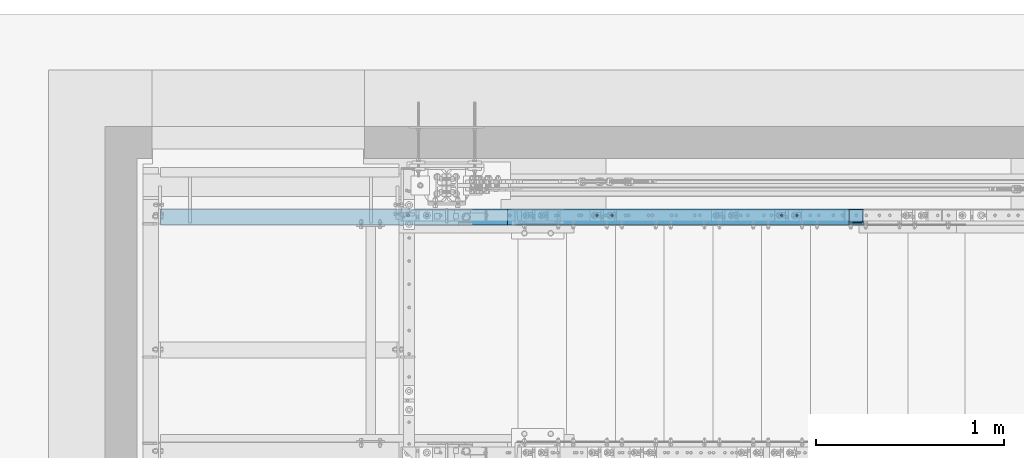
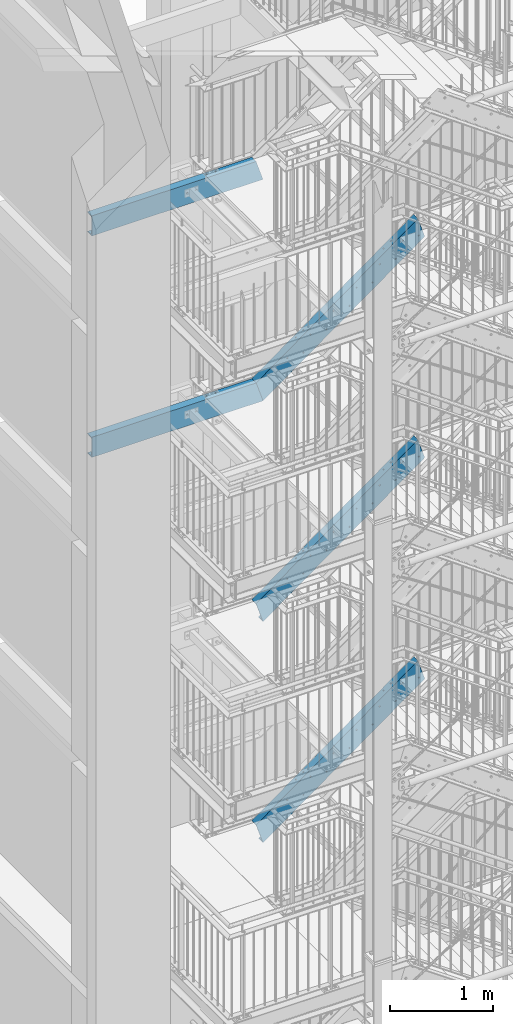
# One storey, part 124 of 817: 3 members, 2 beams, 60 openings.
"""IFC2X3 building model written with IfcOpenShell, lengths in millimetres."""

from ifc_helpers import new_model, entity, si_unit, converted_unit, frame, frame_2d, origin, origin_with_axes, origin_2d_with_axis, place, context, project, spatial, circle, u_section, extrude, clip, halfspace, material, element, save


model = new_model("IFC2X3")

# Units and contexts
model_context = context("Model", 3, precision=1e-09, world=origin_with_axes())
ifc_project = project(units=[si_unit("LENGTHUNIT", "METRE", prefix="MILLI"), si_unit("AREAUNIT", "SQUARE_METRE"), si_unit("VOLUMEUNIT", "CUBIC_METRE"), converted_unit("PLANEANGLEUNIT", "DEGREE", entity("IfcPlaneAngleMeasure", 0.01745329), si_unit("PLANEANGLEUNIT", "RADIAN"), dimensions=[0, 0, 0, 0, 0, 0, 0])], contexts=[model_context])

# Site, building, storey
site_placement = place(None, origin_with_axes())
site = spatial("IfcSite", under=ifc_project, at=site_placement, Name="Cnopf'sche Kinderklinik", CompositionType="ELEMENT")
building_placement = place(site_placement, origin_with_axes())
building = spatial("IfcBuilding", under=site, at=building_placement, Name="Struktur 1", CompositionType="ELEMENT")
storey_placement = place(building_placement, origin_with_axes())
storey = spatial("IfcBuildingStorey", under=building, at=storey_placement, Name="Default Storey", CompositionType="ELEMENT", Elevation=0.0)

# Member, openings
ifc_material = material(Name="S235JR")
member_1_placement = place(None, frame((5040.769761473, 7329.036971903, 9702.599256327), z_axis=(0.810878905, 0.0, 0.585213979), x_axis=(0.0, 1.0, 0.0)))
member_1 = element("IfcMember", 1, at=member_1_placement, inside=storey, material=ifc_material, Name="Stringer#1", ObjectType="Stringer#1", context=model_context, shape_type="Clipping", body=[
    clip(clip(extrude(u_section(Depth=240.0, FlangeWidth=85.0, WebThickness=9.5, FlangeThickness=13.0, FilletRadius=13.0, EdgeRadius=6.5, FlangeSlope=4.574, at=frame_2d((20.2, 0.0))), origin(), (0.0, 0.0, 1.0), 2764.271887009), halfspace(frame((-7329.036971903, -8031.601758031, -129.944247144), z_axis=(0.0, 0.307506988, -0.951545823), x_axis=(-1.0, 0.0, 0.0)), True)), halfspace(frame((-7329.036971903, -7374.852372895, -2162.18142843), z_axis=(0.0, -0.307506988, 0.951545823), x_axis=(1.0, 0.0, 0.0)), True)),
])
opening_1_placement = place(member_1_placement, frame((-22.8, -50.419344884, 791.0398607), z_axis=(1.0, 0.0, 0.0), x_axis=(0.0, -0.585213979, 0.810878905)))
element("IfcOpeningElement", 2, at=opening_1_placement, cuts=member_1, ObjectType="Opening", context=model_context, shape_type="SweptSolid", body=[
    extrude(circle(Radius=7.001, at=origin_2d_with_axis()), origin(), (0.0, 0.0, 1.0), 10.5),
])
opening_2_placement = place(member_1_placement, frame((-22.8, 54.91917113, 1607.0008729), z_axis=(1.0, 0.0, 0.0), x_axis=(0.0, -0.585213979, 0.810878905)))
element("IfcOpeningElement", 3, at=opening_2_placement, cuts=member_1, ObjectType="Opening", context=model_context, shape_type="SweptSolid", body=[
    extrude(circle(Radius=7.001, at=origin_2d_with_axis()), origin(), (0.0, 0.0, 1.0), 10.5),
])
opening_3_placement = place(member_1_placement, frame((-22.8, -50.419345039, 1432.319337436), z_axis=(1.0, 0.0, 0.0), x_axis=(0.0, -0.585213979, 0.810878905)))
element("IfcOpeningElement", 4, at=opening_3_placement, cuts=member_1, ObjectType="Opening", context=model_context, shape_type="SweptSolid", body=[
    extrude(circle(Radius=7.001, at=origin_2d_with_axis()), origin(), (0.0, 0.0, 1.0), 10.5),
])
opening_4_placement = place(member_1_placement, frame((-22.8, -50.419345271, 2394.23855254), z_axis=(1.0, 0.0, 0.0), x_axis=(0.0, -0.585213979, 0.810878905)))
element("IfcOpeningElement", 5, at=opening_4_placement, cuts=member_1, ObjectType="Opening", context=model_context, shape_type="SweptSolid", body=[
    extrude(circle(Radius=7.001, at=origin_2d_with_axis()), origin(), (0.0, 0.0, 1.0), 10.5),
])
opening_5_placement = place(member_1_placement, frame((-22.8, -50.419345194, 2073.598814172), z_axis=(1.0, 0.0, 0.0), x_axis=(0.0, -0.585213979, 0.810878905)))
element("IfcOpeningElement", 6, at=opening_5_placement, cuts=member_1, ObjectType="Opening", context=model_context, shape_type="SweptSolid", body=[
    extrude(circle(Radius=7.001, at=origin_2d_with_axis()), origin(), (0.0, 0.0, 1.0), 10.5),
])
opening_6_placement = place(member_1_placement, frame((-22.8, 54.919171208, 1286.361134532), z_axis=(1.0, 0.0, 0.0), x_axis=(0.0, -0.585213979, 0.810878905)))
element("IfcOpeningElement", 7, at=opening_6_placement, cuts=member_1, ObjectType="Opening", context=model_context, shape_type="SweptSolid", body=[
    extrude(circle(Radius=7.001, at=origin_2d_with_axis()), origin(), (0.0, 0.0, 1.0), 10.5),
])
opening_7_placement = place(member_1_placement, frame((-22.8, 54.919170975, 2248.280349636), z_axis=(1.0, 0.0, 0.0), x_axis=(0.0, -0.585213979, 0.810878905)))
element("IfcOpeningElement", 8, at=opening_7_placement, cuts=member_1, ObjectType="Opening", context=model_context, shape_type="SweptSolid", body=[
    extrude(circle(Radius=7.001, at=origin_2d_with_axis()), origin(), (0.0, 0.0, 1.0), 10.5),
])
opening_8_placement = place(member_1_placement, frame((-22.8, -50.419344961, 1111.679599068), z_axis=(1.0, 0.0, 0.0), x_axis=(0.0, -0.585213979, 0.810878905)))
element("IfcOpeningElement", 9, at=opening_8_placement, cuts=member_1, ObjectType="Opening", context=model_context, shape_type="SweptSolid", body=[
    extrude(circle(Radius=7.001, at=origin_2d_with_axis()), origin(), (0.0, 0.0, 1.0), 10.5),
])
opening_9_placement = place(member_1_placement, frame((-22.8, 54.919171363, 645.081657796), z_axis=(1.0, 0.0, 0.0), x_axis=(0.0, -0.585213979, 0.810878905)))
element("IfcOpeningElement", 10, at=opening_9_placement, cuts=member_1, ObjectType="Opening", context=model_context, shape_type="SweptSolid", body=[
    extrude(circle(Radius=7.001, at=origin_2d_with_axis()), origin(), (0.0, 0.0, 1.0), 10.5),
])
opening_10_placement = place(member_1_placement, frame((-22.8, -50.419345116, 1752.959075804), z_axis=(1.0, 0.0, 0.0), x_axis=(0.0, -0.585213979, 0.810878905)))
element("IfcOpeningElement", 11, at=opening_10_placement, cuts=member_1, ObjectType="Opening", context=model_context, shape_type="SweptSolid", body=[
    extrude(circle(Radius=7.001, at=origin_2d_with_axis()), origin(), (0.0, 0.0, 1.0), 10.5),
])
opening_11_placement = place(member_1_placement, frame((-22.8, 54.919171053, 1927.640611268), z_axis=(1.0, 0.0, 0.0), x_axis=(0.0, -0.585213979, 0.810878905)))
element("IfcOpeningElement", 12, at=opening_11_placement, cuts=member_1, ObjectType="Opening", context=model_context, shape_type="SweptSolid", body=[
    extrude(circle(Radius=7.001, at=origin_2d_with_axis()), origin(), (0.0, 0.0, 1.0), 10.5),
])
opening_12_placement = place(member_1_placement, frame((-22.8, 54.919171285, 965.721396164), z_axis=(1.0, 0.0, 0.0), x_axis=(0.0, -0.585213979, 0.810878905)))
element("IfcOpeningElement", 13, at=opening_12_placement, cuts=member_1, ObjectType="Opening", context=model_context, shape_type="SweptSolid", body=[
    extrude(circle(Radius=7.001, at=origin_2d_with_axis()), origin(), (0.0, 0.0, 1.0), 10.5),
])
opening_13_placement = place(member_1_placement, frame((27.7, 120.5, 940.625983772), z_axis=(0.0, 1.0, 0.0), x_axis=(-1.0, 0.0, 0.0)))
element("IfcOpeningElement", 14, at=opening_13_placement, cuts=member_1, ObjectType="Opening", context=model_context, shape_type="SweptSolid", body=[
    extrude(circle(Radius=7.001, at=frame_2d((0.0, 7.001), x_axis=(1.0, 0.0))), origin(), (0.0, 0.0, -1.0), 14.0),
])
opening_14_placement = place(member_1_placement, frame((27.7, 120.5, 840.625983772), z_axis=(0.0, 1.0, 0.0), x_axis=(-1.0, 0.0, 0.0)))
element("IfcOpeningElement", 15, at=opening_14_placement, cuts=member_1, ObjectType="Opening", context=model_context, shape_type="SweptSolid", body=[
    extrude(circle(Radius=7.001, at=frame_2d((0.0, 7.001), x_axis=(1.0, 0.0))), origin(), (0.0, 0.0, -1.0), 14.0),
])
opening_15_placement = place(member_1_placement, frame((27.7, 120.5, 2155.357476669), z_axis=(0.0, 1.0, 0.0), x_axis=(-1.0, 0.0, 0.0)))
element("IfcOpeningElement", 16, at=opening_15_placement, cuts=member_1, ObjectType="Opening", context=model_context, shape_type="SweptSolid", body=[
    extrude(circle(Radius=7.001, at=frame_2d((0.0, 7.001), x_axis=(1.0, 0.0))), origin(), (0.0, 0.0, -1.0), 14.0),
])
opening_16_placement = place(member_1_placement, frame((27.7, 120.5, 2055.357476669), z_axis=(0.0, 1.0, 0.0), x_axis=(-1.0, 0.0, 0.0)))
element("IfcOpeningElement", 17, at=opening_16_placement, cuts=member_1, ObjectType="Opening", context=model_context, shape_type="SweptSolid", body=[
    extrude(circle(Radius=7.001, at=frame_2d((0.0, 7.001), x_axis=(1.0, 0.0))), origin(), (0.0, 0.0, -1.0), 14.0),
])

member_2_placement = place(None, frame((5041.069476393, 7329.036971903, 7070.450295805), z_axis=(0.810350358, 0.0, 0.585945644), x_axis=(0.0, 1.0, 0.0)))
member_2 = element("IfcMember", 18, at=member_2_placement, inside=storey, material=ifc_material, Name="Stringer#1", ObjectType="Stringer#1", context=model_context, shape_type="Clipping", body=[
    clip(clip(extrude(u_section(Depth=240.0, FlangeWidth=85.0, WebThickness=9.5, FlangeThickness=13.0, FilletRadius=13.0, EdgeRadius=6.5, FlangeSlope=4.574, at=frame_2d((20.2, 0.0))), origin(), (0.0, 0.0, 1.0), 2765.811710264), halfspace(frame((-7329.036971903, -5645.874307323, 639.66863089), z_axis=(0.0, 0.307936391, -0.951406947), x_axis=(-1.0, 0.0, 0.0)), True)), halfspace(frame((-7329.036971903, -4987.874923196, -1393.300525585), z_axis=(0.0, -0.307936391, 0.951406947), x_axis=(1.0, 0.0, 0.0)), True)),
])
opening_17_placement = place(member_2_placement, frame((-22.8, 54.922632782, 2249.429010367), z_axis=(1.0, 0.0, 0.0), x_axis=(0.0, -0.585945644, 0.810350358)))
element("IfcOpeningElement", 19, at=opening_17_placement, cuts=member_2, ObjectType="Opening", context=model_context, shape_type="SweptSolid", body=[
    extrude(circle(Radius=7.001, at=origin_2d_with_axis()), origin(), (0.0, 0.0, 1.0), 10.5),
])
opening_18_placement = place(member_2_placement, frame((-22.8, -50.547583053, 2395.29207482), z_axis=(1.0, 0.0, 0.0), x_axis=(0.0, -0.585945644, 0.810350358)))
element("IfcOpeningElement", 20, at=opening_18_placement, cuts=member_2, ObjectType="Opening", context=model_context, shape_type="SweptSolid", body=[
    extrude(circle(Radius=7.001, at=origin_2d_with_axis()), origin(), (0.0, 0.0, 1.0), 10.5),
])
opening_19_placement = place(member_2_placement, frame((-22.8, -50.547583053, 2074.443200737), z_axis=(1.0, 0.0, 0.0), x_axis=(0.0, -0.585945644, 0.810350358)))
element("IfcOpeningElement", 21, at=opening_19_placement, cuts=member_2, ObjectType="Opening", context=model_context, shape_type="SweptSolid", body=[
    extrude(circle(Radius=7.001, at=origin_2d_with_axis()), origin(), (0.0, 0.0, 1.0), 10.5),
])
opening_20_placement = place(member_2_placement, frame((-22.8, 54.922632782, 1607.731262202), z_axis=(1.0, 0.0, 0.0), x_axis=(0.0, -0.585945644, 0.810350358)))
element("IfcOpeningElement", 22, at=opening_20_placement, cuts=member_2, ObjectType="Opening", context=model_context, shape_type="SweptSolid", body=[
    extrude(circle(Radius=7.001, at=origin_2d_with_axis()), origin(), (0.0, 0.0, 1.0), 10.5),
])
opening_21_placement = place(member_2_placement, frame((-22.8, 54.922632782, 966.033514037), z_axis=(1.0, 0.0, 0.0), x_axis=(0.0, -0.585945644, 0.810350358)))
element("IfcOpeningElement", 23, at=opening_21_placement, cuts=member_2, ObjectType="Opening", context=model_context, shape_type="SweptSolid", body=[
    extrude(circle(Radius=7.001, at=origin_2d_with_axis()), origin(), (0.0, 0.0, 1.0), 10.5),
])
opening_22_placement = place(member_2_placement, frame((-22.8, 54.922632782, 1286.882388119), z_axis=(1.0, 0.0, 0.0), x_axis=(0.0, -0.585945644, 0.810350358)))
element("IfcOpeningElement", 24, at=opening_22_placement, cuts=member_2, ObjectType="Opening", context=model_context, shape_type="SweptSolid", body=[
    extrude(circle(Radius=7.001, at=origin_2d_with_axis()), origin(), (0.0, 0.0, 1.0), 10.5),
])
opening_23_placement = place(member_2_placement, frame((-22.8, -50.547583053, 1111.89657849), z_axis=(1.0, 0.0, 0.0), x_axis=(0.0, -0.585945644, 0.810350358)))
element("IfcOpeningElement", 25, at=opening_23_placement, cuts=member_2, ObjectType="Opening", context=model_context, shape_type="SweptSolid", body=[
    extrude(circle(Radius=7.001, at=origin_2d_with_axis()), origin(), (0.0, 0.0, 1.0), 10.5),
])
opening_24_placement = place(member_2_placement, frame((-22.8, 54.922632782, 1928.580136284), z_axis=(1.0, 0.0, 0.0), x_axis=(0.0, -0.585945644, 0.810350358)))
element("IfcOpeningElement", 26, at=opening_24_placement, cuts=member_2, ObjectType="Opening", context=model_context, shape_type="SweptSolid", body=[
    extrude(circle(Radius=7.001, at=origin_2d_with_axis()), origin(), (0.0, 0.0, 1.0), 10.5),
])
opening_25_placement = place(member_2_placement, frame((-22.8, -50.547583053, 791.047704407), z_axis=(1.0, 0.0, 0.0), x_axis=(0.0, -0.585945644, 0.810350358)))
element("IfcOpeningElement", 27, at=opening_25_placement, cuts=member_2, ObjectType="Opening", context=model_context, shape_type="SweptSolid", body=[
    extrude(circle(Radius=7.001, at=origin_2d_with_axis()), origin(), (0.0, 0.0, 1.0), 10.5),
])
opening_26_placement = place(member_2_placement, frame((-22.8, 54.922632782, 645.184639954), z_axis=(1.0, 0.0, 0.0), x_axis=(0.0, -0.585945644, 0.810350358)))
element("IfcOpeningElement", 28, at=opening_26_placement, cuts=member_2, ObjectType="Opening", context=model_context, shape_type="SweptSolid", body=[
    extrude(circle(Radius=7.001, at=origin_2d_with_axis()), origin(), (0.0, 0.0, 1.0), 10.5),
])
opening_27_placement = place(member_2_placement, frame((-22.8, -50.547583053, 1432.745452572), z_axis=(1.0, 0.0, 0.0), x_axis=(0.0, -0.585945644, 0.810350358)))
element("IfcOpeningElement", 29, at=opening_27_placement, cuts=member_2, ObjectType="Opening", context=model_context, shape_type="SweptSolid", body=[
    extrude(circle(Radius=7.001, at=origin_2d_with_axis()), origin(), (0.0, 0.0, 1.0), 10.5),
])
opening_28_placement = place(member_2_placement, frame((-22.8, -50.547583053, 1753.594326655), z_axis=(1.0, 0.0, 0.0), x_axis=(0.0, -0.585945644, 0.810350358)))
element("IfcOpeningElement", 30, at=opening_28_placement, cuts=member_2, ObjectType="Opening", context=model_context, shape_type="SweptSolid", body=[
    extrude(circle(Radius=7.001, at=origin_2d_with_axis()), origin(), (0.0, 0.0, 1.0), 10.5),
])
opening_29_placement = place(member_2_placement, frame((27.7, 120.5, 940.946569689), z_axis=(0.0, 1.0, 0.0), x_axis=(-1.0, 0.0, 0.0)))
element("IfcOpeningElement", 31, at=opening_29_placement, cuts=member_2, ObjectType="Opening", context=model_context, shape_type="SweptSolid", body=[
    extrude(circle(Radius=7.001, at=frame_2d((0.0, 7.001), x_axis=(1.0, 0.0))), origin(), (0.0, 0.0, -1.0), 14.0),
])
opening_30_placement = place(member_2_placement, frame((27.7, 120.5, 840.946569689), z_axis=(0.0, 1.0, 0.0), x_axis=(-1.0, 0.0, 0.0)))
element("IfcOpeningElement", 32, at=opening_30_placement, cuts=member_2, ObjectType="Opening", context=model_context, shape_type="SweptSolid", body=[
    extrude(circle(Radius=7.001, at=frame_2d((0.0, 7.001), x_axis=(1.0, 0.0))), origin(), (0.0, 0.0, -1.0), 14.0),
])
opening_31_placement = place(member_2_placement, frame((27.7, 120.5, 2156.470365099), z_axis=(0.0, 1.0, 0.0), x_axis=(-1.0, 0.0, 0.0)))
element("IfcOpeningElement", 33, at=opening_31_placement, cuts=member_2, ObjectType="Opening", context=model_context, shape_type="SweptSolid", body=[
    extrude(circle(Radius=7.001, at=frame_2d((0.0, 7.001), x_axis=(1.0, 0.0))), origin(), (0.0, 0.0, -1.0), 14.0),
])
opening_32_placement = place(member_2_placement, frame((27.7, 120.5, 2056.470365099), z_axis=(0.0, 1.0, 0.0), x_axis=(-1.0, 0.0, 0.0)))
element("IfcOpeningElement", 34, at=opening_32_placement, cuts=member_2, ObjectType="Opening", context=model_context, shape_type="SweptSolid", body=[
    extrude(circle(Radius=7.001, at=frame_2d((0.0, 7.001), x_axis=(1.0, 0.0))), origin(), (0.0, 0.0, -1.0), 14.0),
])

member_3_placement = place(None, frame((5041.249041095, 7329.036971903, 12329.361065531), z_axis=(0.810033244, 0.0, 0.586383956), x_axis=(0.0, 1.0, 0.0)))
member_3 = element("IfcMember", 35, at=member_3_placement, inside=storey, material=ifc_material, Name="Stringer#1", ObjectType="Stringer#1", context=model_context, shape_type="Clipping", body=[
    clip(clip(extrude(u_section(Depth=240.0, FlangeWidth=85.0, WebThickness=9.5, FlangeThickness=13.0, FilletRadius=13.0, EdgeRadius=6.5, FlangeSlope=4.574, at=frame_2d((20.2, 0.0))), origin(), (0.0, 0.0, 1.0), 2766.736495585), halfspace(frame((-7329.036971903, -10403.792085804, -902.542281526), z_axis=(0.0, 0.308193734, -0.951323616), x_axis=(-1.0, 0.0, 0.0)), True)), halfspace(frame((-7329.036971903, -9745.042702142, -2935.951061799), z_axis=(0.0, -0.308193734, 0.951323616), x_axis=(1.0, 0.0, 0.0)), True)),
])
opening_33_placement = place(member_3_placement, frame((-22.8, 54.92473321, 1287.195743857), z_axis=(1.0, 0.0, 0.0), x_axis=(0.0, -0.586383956, 0.810033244)))
element("IfcOpeningElement", 36, at=opening_33_placement, cuts=member_3, ObjectType="Opening", context=model_context, shape_type="SweptSolid", body=[
    extrude(circle(Radius=7.001, at=origin_2d_with_axis()), origin(), (0.0, 0.0, 1.0), 10.5),
])
opening_34_placement = place(member_3_placement, frame((-22.8, -50.624378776, 1112.027246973), z_axis=(1.0, 0.0, 0.0), x_axis=(0.0, -0.586383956, 0.810033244)))
element("IfcOpeningElement", 37, at=opening_34_placement, cuts=member_3, ObjectType="Opening", context=model_context, shape_type="SweptSolid", body=[
    extrude(circle(Radius=7.001, at=origin_2d_with_axis()), origin(), (0.0, 0.0, 1.0), 10.5),
])
opening_35_placement = place(member_3_placement, frame((-22.8, -50.624378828, 1753.976208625), z_axis=(1.0, 0.0, 0.0), x_axis=(0.0, -0.586383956, 0.810033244)))
element("IfcOpeningElement", 38, at=opening_35_placement, cuts=member_3, ObjectType="Opening", context=model_context, shape_type="SweptSolid", body=[
    extrude(circle(Radius=7.001, at=origin_2d_with_axis()), origin(), (0.0, 0.0, 1.0), 10.5),
])
opening_36_placement = place(member_3_placement, frame((-22.8, 54.924733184, 1608.170224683), z_axis=(1.0, 0.0, 0.0), x_axis=(0.0, -0.586383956, 0.810033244)))
element("IfcOpeningElement", 39, at=opening_36_placement, cuts=member_3, ObjectType="Opening", context=model_context, shape_type="SweptSolid", body=[
    extrude(circle(Radius=7.001, at=origin_2d_with_axis()), origin(), (0.0, 0.0, 1.0), 10.5),
])
opening_37_placement = place(member_3_placement, frame((-22.8, -50.624378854, 2074.950689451), z_axis=(1.0, 0.0, 0.0), x_axis=(0.0, -0.586383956, 0.810033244)))
element("IfcOpeningElement", 40, at=opening_37_placement, cuts=member_3, ObjectType="Opening", context=model_context, shape_type="SweptSolid", body=[
    extrude(circle(Radius=7.001, at=origin_2d_with_axis()), origin(), (0.0, 0.0, 1.0), 10.5),
])
opening_38_placement = place(member_3_placement, frame((-22.8, 54.924733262, 645.246782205), z_axis=(1.0, 0.0, 0.0), x_axis=(0.0, -0.586383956, 0.810033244)))
element("IfcOpeningElement", 41, at=opening_38_placement, cuts=member_3, ObjectType="Opening", context=model_context, shape_type="SweptSolid", body=[
    extrude(circle(Radius=7.001, at=origin_2d_with_axis()), origin(), (0.0, 0.0, 1.0), 10.5),
])
opening_39_placement = place(member_3_placement, frame((-22.8, 54.924733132, 2250.119186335), z_axis=(1.0, 0.0, 0.0), x_axis=(0.0, -0.586383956, 0.810033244)))
element("IfcOpeningElement", 42, at=opening_39_placement, cuts=member_3, ObjectType="Opening", context=model_context, shape_type="SweptSolid", body=[
    extrude(circle(Radius=7.001, at=origin_2d_with_axis()), origin(), (0.0, 0.0, 1.0), 10.5),
])
opening_40_placement = place(member_3_placement, frame((-22.8, 54.924733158, 1929.144705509), z_axis=(1.0, 0.0, 0.0), x_axis=(0.0, -0.586383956, 0.810033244)))
element("IfcOpeningElement", 43, at=opening_40_placement, cuts=member_3, ObjectType="Opening", context=model_context, shape_type="SweptSolid", body=[
    extrude(circle(Radius=7.001, at=origin_2d_with_axis()), origin(), (0.0, 0.0, 1.0), 10.5),
])
opening_41_placement = place(member_3_placement, frame((-22.8, -50.624378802, 1433.001727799), z_axis=(1.0, 0.0, 0.0), x_axis=(0.0, -0.586383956, 0.810033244)))
element("IfcOpeningElement", 44, at=opening_41_placement, cuts=member_3, ObjectType="Opening", context=model_context, shape_type="SweptSolid", body=[
    extrude(circle(Radius=7.001, at=origin_2d_with_axis()), origin(), (0.0, 0.0, 1.0), 10.5),
])
opening_42_placement = place(member_3_placement, frame((-22.8, 54.924733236, 966.221263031), z_axis=(1.0, 0.0, 0.0), x_axis=(0.0, -0.586383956, 0.810033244)))
element("IfcOpeningElement", 45, at=opening_42_placement, cuts=member_3, ObjectType="Opening", context=model_context, shape_type="SweptSolid", body=[
    extrude(circle(Radius=7.001, at=origin_2d_with_axis()), origin(), (0.0, 0.0, 1.0), 10.5),
])
opening_43_placement = place(member_3_placement, frame((-22.8, -50.62437888, 2395.925170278), z_axis=(1.0, 0.0, 0.0), x_axis=(0.0, -0.586383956, 0.810033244)))
element("IfcOpeningElement", 46, at=opening_43_placement, cuts=member_3, ObjectType="Opening", context=model_context, shape_type="SweptSolid", body=[
    extrude(circle(Radius=7.001, at=origin_2d_with_axis()), origin(), (0.0, 0.0, 1.0), 10.5),
])
opening_44_placement = place(member_3_placement, frame((-22.8, -50.62437875, 791.052766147), z_axis=(1.0, 0.0, 0.0), x_axis=(0.0, -0.586383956, 0.810033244)))
element("IfcOpeningElement", 47, at=opening_44_placement, cuts=member_3, ObjectType="Opening", context=model_context, shape_type="SweptSolid", body=[
    extrude(circle(Radius=7.001, at=origin_2d_with_axis()), origin(), (0.0, 0.0, 1.0), 10.5),
])
opening_45_placement = place(member_3_placement, frame((27.7, 120.5, 941.139330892), z_axis=(0.0, 1.0, 0.0), x_axis=(-1.0, 0.0, 0.0)))
element("IfcOpeningElement", 48, at=opening_45_placement, cuts=member_3, ObjectType="Opening", context=model_context, shape_type="SweptSolid", body=[
    extrude(circle(Radius=7.001, at=frame_2d((0.0, 7.001), x_axis=(1.0, 0.0))), origin(), (0.0, 0.0, -1.0), 14.0),
])
opening_46_placement = place(member_3_placement, frame((27.7, 120.5, 841.139330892), z_axis=(0.0, 1.0, 0.0), x_axis=(-1.0, 0.0, 0.0)))
element("IfcOpeningElement", 49, at=opening_46_placement, cuts=member_3, ObjectType="Opening", context=model_context, shape_type="SweptSolid", body=[
    extrude(circle(Radius=7.001, at=frame_2d((0.0, 7.001), x_axis=(1.0, 0.0))), origin(), (0.0, 0.0, -1.0), 14.0),
])
opening_47_placement = place(member_3_placement, frame((27.7, 120.5, 2157.13898276), z_axis=(0.0, 1.0, 0.0), x_axis=(-1.0, 0.0, 0.0)))
element("IfcOpeningElement", 50, at=opening_47_placement, cuts=member_3, ObjectType="Opening", context=model_context, shape_type="SweptSolid", body=[
    extrude(circle(Radius=7.001, at=frame_2d((0.0, 7.001), x_axis=(1.0, 0.0))), origin(), (0.0, 0.0, -1.0), 14.000000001),
])
opening_48_placement = place(member_3_placement, frame((27.7, 120.500000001, 2057.13898276), z_axis=(0.0, 1.0, 0.0), x_axis=(-1.0, 0.0, 0.0)))
element("IfcOpeningElement", 51, at=opening_48_placement, cuts=member_3, ObjectType="Opening", context=model_context, shape_type="SweptSolid", body=[
    extrude(circle(Radius=7.001, at=frame_2d((0.0, 7.001), x_axis=(1.0, 0.0))), origin(), (0.0, 0.0, -1.0), 14.000000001),
])

# Beam, openings
beam_1_placement = place(None, frame((3074.409632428, 7329.036971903, 12459.0), z_axis=(1.0, 0.0, 0.0), x_axis=(0.0, 1.0, 0.0)))
beam_1 = element("IfcBeam", 52, at=beam_1_placement, inside=storey, material=ifc_material, Name="BottomLanding#2", ObjectType="BottomLanding#2", context=model_context, shape_type="Clipping", body=[
    clip(clip(extrude(u_section(Depth=240.0, FlangeWidth=85.0, WebThickness=9.5, FlangeThickness=13.0, FilletRadius=13.0, EdgeRadius=6.5, FlangeSlope=4.574, at=frame_2d((20.2, 0.0))), origin(), (0.0, 0.0, 1.0), 2367.005168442), halfspace(frame((-7329.036971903, -12459.0, 257.304770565), z_axis=(0.0, 0.0, 1.0), x_axis=(1.0, 0.0, 0.0)), True)), halfspace(frame((-7329.036971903, -9745.042702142, 5302.956230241), z_axis=(0.0, -0.308193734, -0.951323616), x_axis=(-1.0, 0.0, 0.0)), True)),
])
opening_49_placement = place(beam_1_placement, frame((-12.3, 20.0, 1377.303770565), z_axis=(-1.0, 0.0, 0.0), x_axis=(0.0, 0.0, 1.0)))
element("IfcOpeningElement", 53, at=opening_49_placement, cuts=beam_1, ObjectType="Opening", context=model_context, shape_type="SweptSolid", body=[
    extrude(circle(Radius=7.001, at=frame_2d((50.0, 0.0), x_axis=(1.0, 0.0))), origin(), (0.0, 0.0, 1.0), 10.5),
])
opening_50_placement = place(beam_1_placement, frame((-12.3, 20.0, 1377.303770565), z_axis=(-1.0, 0.0, 0.0), x_axis=(0.0, 0.0, 1.0)))
element("IfcOpeningElement", 54, at=opening_50_placement, cuts=beam_1, ObjectType="Opening", context=model_context, shape_type="SweptSolid", body=[
    extrude(circle(Radius=7.001, at=frame_2d((-50.0, 0.0), x_axis=(1.0, 0.0))), origin(), (0.0, 0.0, 1.0), 10.5),
])
opening_51_placement = place(beam_1_placement, frame((27.7, 120.5, 1670.302770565), z_axis=(0.0, 1.0, 0.0), x_axis=(-1.0, 0.0, 0.0)))
element("IfcOpeningElement", 55, at=opening_51_placement, cuts=beam_1, ObjectType="Opening", context=model_context, shape_type="SweptSolid", body=[
    extrude(circle(Radius=7.001, at=frame_2d((0.0, 7.001), x_axis=(1.0, 0.0))), origin(), (0.0, 0.0, -1.0), 14.0),
])
opening_52_placement = place(beam_1_placement, frame((27.7, 120.5, 1570.302770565), z_axis=(0.0, 1.0, 0.0), x_axis=(-1.0, 0.0, 0.0)))
element("IfcOpeningElement", 56, at=opening_52_placement, cuts=beam_1, ObjectType="Opening", context=model_context, shape_type="SweptSolid", body=[
    extrude(circle(Radius=7.001, at=frame_2d((0.0, 7.001), x_axis=(1.0, 0.0))), origin(), (0.0, 0.0, -1.0), 14.0),
])
opening_53_placement = place(beam_1_placement, frame((22.7, -120.5, 1832.303770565), z_axis=(0.0, 1.0, 0.0), x_axis=(1.0, 0.0, 0.0)))
element("IfcOpeningElement", 57, at=opening_53_placement, cuts=beam_1, ObjectType="Opening", context=model_context, shape_type="SweptSolid", body=[
    extrude(circle(Radius=7.001, at=origin_2d_with_axis()), origin(), (0.0, 0.0, 1.0), 14.0),
])
opening_54_placement = place(beam_1_placement, frame((22.7, -120.5, 1732.303770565), z_axis=(0.0, 1.0, 0.0), x_axis=(1.0, 0.0, 0.0)))
element("IfcOpeningElement", 58, at=opening_54_placement, cuts=beam_1, ObjectType="Opening", context=model_context, shape_type="SweptSolid", body=[
    extrude(circle(Radius=7.001, at=origin_2d_with_axis()), origin(), (0.0, 0.0, 1.0), 14.0),
])

beam_2_placement = place(None, frame((3074.409632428, 7329.036971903, 15094.0), z_axis=(1.0, 0.0, 0.0), x_axis=(0.0, 1.0, 0.0)))
beam_2 = element("IfcBeam", 59, at=beam_2_placement, inside=storey, material=ifc_material, Name="BottomLanding#2", ObjectType="BottomLanding#2", context=model_context, shape_type="Clipping", body=[
    clip(clip(extrude(u_section(Depth=240.0, FlangeWidth=85.0, WebThickness=9.5, FlangeThickness=13.0, FilletRadius=13.0, EdgeRadius=6.5, FlangeSlope=4.574, at=frame_2d((20.2, 0.0))), origin(), (0.0, 0.0, 1.0), 2366.575023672), halfspace(frame((-7329.036971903, -15094.0, 257.304770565), z_axis=(0.0, 0.0, 1.0), x_axis=(1.0, 0.0, 0.0)), True)), halfspace(frame((-7329.036971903, -12147.607204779, 6062.628184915), z_axis=(0.0, -0.306904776, -0.951740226), x_axis=(-1.0, 0.0, 0.0)), True)),
])
opening_55_placement = place(beam_2_placement, frame((-12.3, 20.0, 1377.303770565), z_axis=(-1.0, 0.0, 0.0), x_axis=(0.0, 0.0, 1.0)))
element("IfcOpeningElement", 60, at=opening_55_placement, cuts=beam_2, ObjectType="Opening", context=model_context, shape_type="SweptSolid", body=[
    extrude(circle(Radius=7.001, at=frame_2d((50.0, 0.0), x_axis=(1.0, 0.0))), origin(), (0.0, 0.0, 1.0), 10.5),
])
opening_56_placement = place(beam_2_placement, frame((-12.3, 20.0, 1377.303770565), z_axis=(-1.0, 0.0, 0.0), x_axis=(0.0, 0.0, 1.0)))
element("IfcOpeningElement", 61, at=opening_56_placement, cuts=beam_2, ObjectType="Opening", context=model_context, shape_type="SweptSolid", body=[
    extrude(circle(Radius=7.001, at=frame_2d((-50.0, 0.0), x_axis=(1.0, 0.0))), origin(), (0.0, 0.0, 1.0), 10.5),
])
opening_57_placement = place(beam_2_placement, frame((27.7, 120.5, 1670.302770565), z_axis=(0.0, 1.0, 0.0), x_axis=(-1.0, 0.0, 0.0)))
element("IfcOpeningElement", 62, at=opening_57_placement, cuts=beam_2, ObjectType="Opening", context=model_context, shape_type="SweptSolid", body=[
    extrude(circle(Radius=7.001, at=frame_2d((0.0, 7.001), x_axis=(1.0, 0.0))), origin(), (0.0, 0.0, -1.0), 14.0),
])
opening_58_placement = place(beam_2_placement, frame((27.7, 120.5, 1570.302770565), z_axis=(0.0, 1.0, 0.0), x_axis=(-1.0, 0.0, 0.0)))
element("IfcOpeningElement", 63, at=opening_58_placement, cuts=beam_2, ObjectType="Opening", context=model_context, shape_type="SweptSolid", body=[
    extrude(circle(Radius=7.001, at=frame_2d((0.0, 7.001), x_axis=(1.0, 0.0))), origin(), (0.0, 0.0, -1.0), 14.0),
])
opening_59_placement = place(beam_2_placement, frame((22.7, -120.5, 1732.303770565), z_axis=(0.0, 1.0, 0.0), x_axis=(1.0, 0.0, 0.0)))
element("IfcOpeningElement", 64, at=opening_59_placement, cuts=beam_2, ObjectType="Opening", context=model_context, shape_type="SweptSolid", body=[
    extrude(circle(Radius=7.001, at=origin_2d_with_axis()), origin(), (0.0, 0.0, 1.0), 14.0),
])
opening_60_placement = place(beam_2_placement, frame((22.7, -120.5, 1832.303770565), z_axis=(0.0, 1.0, 0.0), x_axis=(1.0, 0.0, 0.0)))
element("IfcOpeningElement", 65, at=opening_60_placement, cuts=beam_2, ObjectType="Opening", context=model_context, shape_type="SweptSolid", body=[
    extrude(circle(Radius=7.001, at=origin_2d_with_axis()), origin(), (0.0, 0.0, 1.0), 14.0),
])

save(model, "model.ifc")
